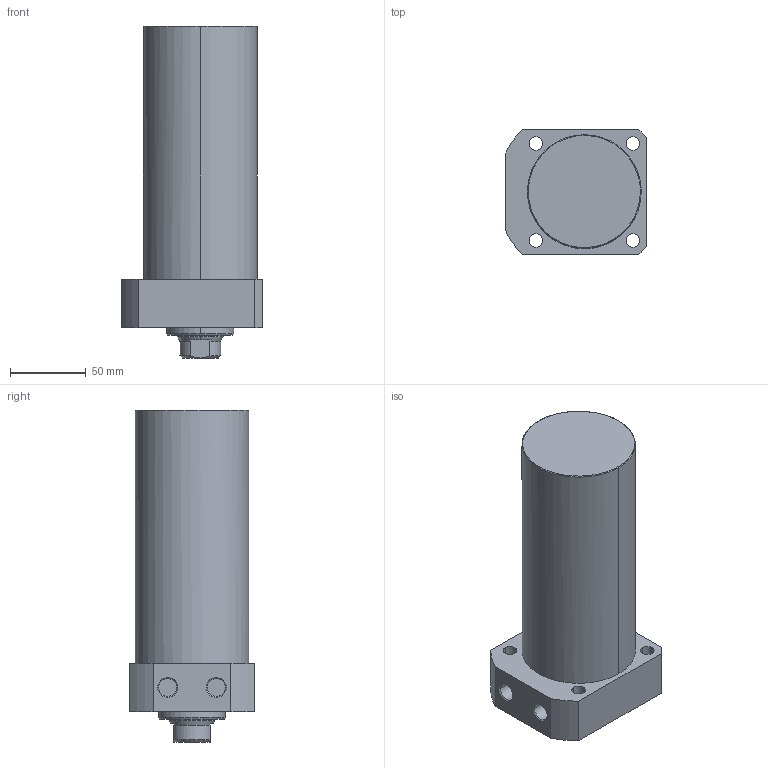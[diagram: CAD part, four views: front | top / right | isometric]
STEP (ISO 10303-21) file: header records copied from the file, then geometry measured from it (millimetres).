
FILE_DESCRIPTION((' '),'2;1');
FILE_NAME( 'TLLR-075CA-130.STEP.stp', '2025-10-24T16:35:07', (' '), ('--- Datakit www.datakit.com---'), ' Datakit CrossCadWare V2024.1 Dec 21 2023', 'Mastercam 2025', ' ');
FILE_SCHEMA(('AUTOMOTIVE_DESIGN { 1 0 10303 214 1 1 1 1 }'));
Length unit declared in the file: millimetre
Products named in the file (1): TLLR-075CA-130
Bounding box: 93 x 82 x 219 mm (x, y, z)
Volume: 972883.6 mm3; surface area: 73009.7 mm2
Topology: 1 solids, 1 shells, 63 faces, 177 edges, 122 vertices
Faces by surface type: cylinder 28, plane 19, cone 14, torus 2
Entity records: 2168 total; most frequent: CARTESIAN_POINT 405, DIRECTION 400, ORIENTED_EDGE 350, EDGE_CURVE 175, AXIS2_PLACEMENT_3D 169, VERTEX_POINT 122, CIRCLE 105, EDGE_LOOP 79
